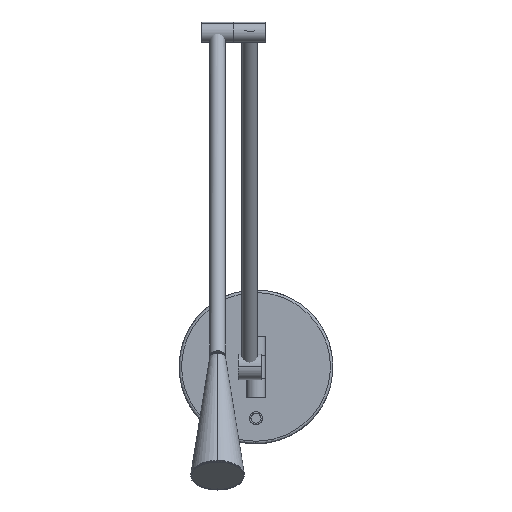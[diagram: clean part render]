
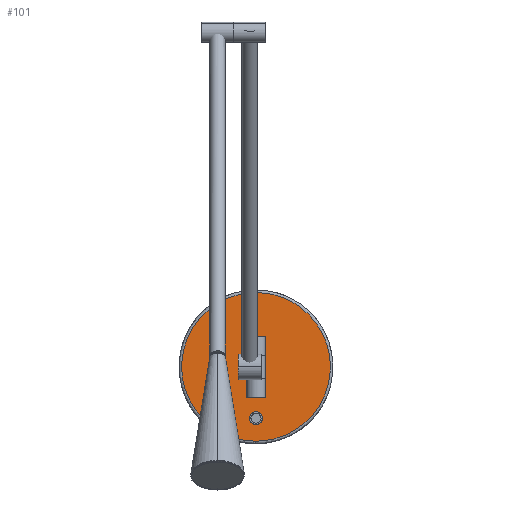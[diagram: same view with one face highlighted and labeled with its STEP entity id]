
A CAD part, front view. The second image highlights one B-rep face of the part: STEP entity #101.
In plain terms, the highlighted planar face has unit normal (0, -1, 0).
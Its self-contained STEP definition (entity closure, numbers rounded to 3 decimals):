
#14=FACE_BOUND('',#335,.T.);
#101=ADVANCED_FACE('',(#217,#14),#1414,.T.);
#217=FACE_OUTER_BOUND('',#334,.T.);
#334=EDGE_LOOP('',(#512,#513));
#335=EDGE_LOOP('',(#514,#515));
#512=ORIENTED_EDGE('',*,*,#904,.F.);
#513=ORIENTED_EDGE('',*,*,#892,.F.);
#514=ORIENTED_EDGE('',*,*,#902,.F.);
#515=ORIENTED_EDGE('',*,*,#887,.F.);
#887=EDGE_CURVE('',#1293,#1301,#1159,.T.);
#892=EDGE_CURVE('',#1295,#1303,#1164,.T.);
#902=EDGE_CURVE('',#1301,#1293,#1172,.T.);
#904=EDGE_CURVE('',#1303,#1295,#1174,.T.);
#1159=(
BOUNDED_CURVE()
B_SPLINE_CURVE(2,(#2370,#2371,#2372,#2373,#2374),.UNSPECIFIED.,.F.,.F.)
B_SPLINE_CURVE_WITH_KNOTS((3,2,3),(-31.416,-23.562,
-15.708),.UNSPECIFIED.)
CURVE()
GEOMETRIC_REPRESENTATION_ITEM()
RATIONAL_B_SPLINE_CURVE((1.,0.707,1.,0.707,1.))
REPRESENTATION_ITEM('')
);
#1164=(
BOUNDED_CURVE()
B_SPLINE_CURVE(2,(#2387,#2388,#2389,#2390,#2391),.UNSPECIFIED.,.F.,.F.)
B_SPLINE_CURVE_WITH_KNOTS((3,2,3),(0.,91.106,182.212),
 .UNSPECIFIED.)
CURVE()
GEOMETRIC_REPRESENTATION_ITEM()
RATIONAL_B_SPLINE_CURVE((1.,0.707,1.,0.707,1.))
REPRESENTATION_ITEM('')
);
#1172=(
BOUNDED_CURVE()
B_SPLINE_CURVE(2,(#2456,#2457,#2458,#2459,#2460),.UNSPECIFIED.,.F.,.F.)
B_SPLINE_CURVE_WITH_KNOTS((3,2,3),(-15.708,-7.854,0.),
 .UNSPECIFIED.)
CURVE()
GEOMETRIC_REPRESENTATION_ITEM()
RATIONAL_B_SPLINE_CURVE((1.,0.707,1.,0.707,1.))
REPRESENTATION_ITEM('')
);
#1174=(
BOUNDED_CURVE()
B_SPLINE_CURVE(2,(#2464,#2465,#2466,#2467,#2468),.UNSPECIFIED.,.F.,.F.)
B_SPLINE_CURVE_WITH_KNOTS((3,2,3),(182.212,273.318,364.424),
 .UNSPECIFIED.)
CURVE()
GEOMETRIC_REPRESENTATION_ITEM()
RATIONAL_B_SPLINE_CURVE((1.,0.707,1.,0.707,1.))
REPRESENTATION_ITEM('')
);
#1293=VERTEX_POINT('',#2314);
#1295=VERTEX_POINT('',#2316);
#1301=VERTEX_POINT('',#2322);
#1303=VERTEX_POINT('',#2324);
#1414=PLANE('',#1613);
#1613=AXIS2_PLACEMENT_3D('',#2276,#1722,$);
#1722=DIRECTION('',(0.,-1.,0.));
#2276=CARTESIAN_POINT('',(30913.045,-15538.76,1412.545));
#2314=CARTESIAN_POINT('',(30843.045,-15538.76,1297.545));
#2316=CARTESIAN_POINT('',(30838.045,-15538.76,1279.545));
#2322=CARTESIAN_POINT('',(30833.045,-15538.76,1297.545));
#2324=CARTESIAN_POINT('',(30838.045,-15538.76,1395.545));
#2370=CARTESIAN_POINT('',(30843.045,-15538.76,1297.545));
#2371=CARTESIAN_POINT('',(30843.045,-15538.76,1302.545));
#2372=CARTESIAN_POINT('',(30838.045,-15538.76,1302.545));
#2373=CARTESIAN_POINT('',(30833.045,-15538.76,1302.545));
#2374=CARTESIAN_POINT('',(30833.045,-15538.76,1297.545));
#2387=CARTESIAN_POINT('',(30838.045,-15538.76,1279.545));
#2388=CARTESIAN_POINT('',(30780.045,-15538.76,1279.545));
#2389=CARTESIAN_POINT('',(30780.045,-15538.76,1337.545));
#2390=CARTESIAN_POINT('',(30780.045,-15538.76,1395.545));
#2391=CARTESIAN_POINT('',(30838.045,-15538.76,1395.545));
#2456=CARTESIAN_POINT('',(30833.045,-15538.76,1297.545));
#2457=CARTESIAN_POINT('',(30833.045,-15538.76,1292.545));
#2458=CARTESIAN_POINT('',(30838.045,-15538.76,1292.545));
#2459=CARTESIAN_POINT('',(30843.045,-15538.76,1292.545));
#2460=CARTESIAN_POINT('',(30843.045,-15538.76,1297.545));
#2464=CARTESIAN_POINT('',(30838.045,-15538.76,1395.545));
#2465=CARTESIAN_POINT('',(30896.045,-15538.76,1395.545));
#2466=CARTESIAN_POINT('',(30896.045,-15538.76,1337.545));
#2467=CARTESIAN_POINT('',(30896.045,-15538.76,1279.545));
#2468=CARTESIAN_POINT('',(30838.045,-15538.76,1279.545));
